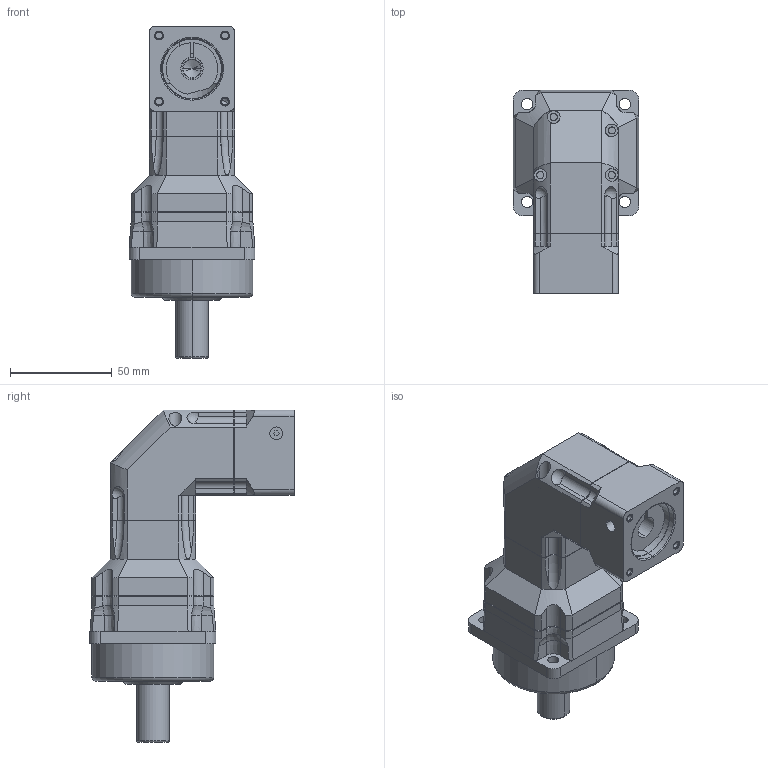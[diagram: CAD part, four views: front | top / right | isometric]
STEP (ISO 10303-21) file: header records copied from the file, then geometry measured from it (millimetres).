
FILE_DESCRIPTION((''),'2;1');
FILE_NAME('AFR0602-P4010102_ASM','2005-07-26T',('jacky'),(''),'PRO/ENGINEER BY PARAMETRIC TECHNOLOGY CORPORATION, 2001280','PRO/ENGINEER BY PARAMETRIC TECHNOLOGY CORPORATION, 2001280','');
FILE_SCHEMA(('CONFIG_CONTROL_DESIGN'));
Length unit declared in the file: millimetre
Products named in the file (5): AF0602; AB0602-1; PD010001; P4010102; AFR0602-P4010102_ASM
Assembly tree (4 placements, depth 2):
  AFR0602-P4010102_ASM
    AF0602
    AB0602-1
    PD010001
    P4010102
Bounding box: 62 x 100.5 x 163.5 mm (x, y, z)
Volume: 308626.1 mm3; surface area: 66555.3 mm2
Topology: 5 solids, 15 shells, 527 faces, 1265 edges, 771 vertices
Faces by surface type: plane 197, cylinder 176, cone 94, bspline 36, torus 20, sphere 4
Entity records: 16943 total; most frequent: CARTESIAN_POINT 4689, DIRECTION 2570, ORIENTED_EDGE 2456, EDGE_CURVE 1251, AXIS2_PLACEMENT_3D 991, VERTEX_POINT 771, VECTOR 588, LINE 588
